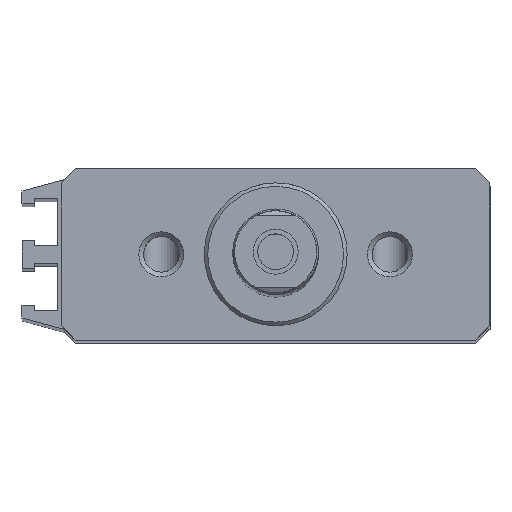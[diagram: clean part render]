
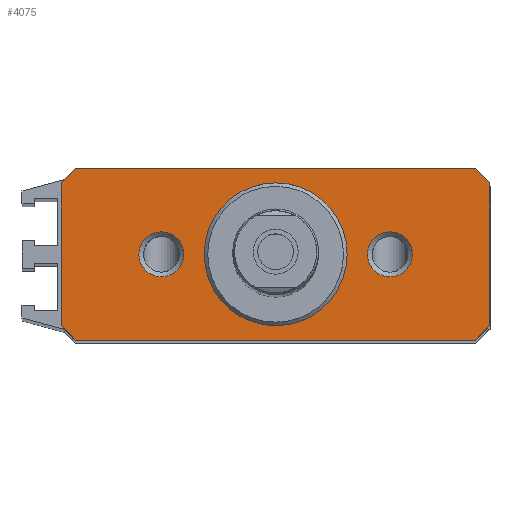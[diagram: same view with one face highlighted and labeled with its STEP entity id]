
A CAD part, top view. The second image highlights one B-rep face of the part: STEP entity #4075.
In plain terms, the highlighted planar face has unit normal (0, 0, 1) as drawn and (0, 0, -1) by its records, which use the part's own axes.
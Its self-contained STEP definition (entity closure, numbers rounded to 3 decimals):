
#2906=CARTESIAN_POINT('',(-10.0,0.0,-8.5));
#2907=VERTEX_POINT('',#2906);
#2908=CARTESIAN_POINT('',(0.0,0.0,-8.5));
#2909=DIRECTION('',(0.0,0.0,1.0));
#2910=DIRECTION('',(-1.0,0.0,0.0));
#2911=AXIS2_PLACEMENT_3D('',#2908,#2909,#2910);
#2912=CIRCLE('',#2911,10.0);
#2913=EDGE_CURVE('',#2907,#2907,#2912,.T.);
#3476=CARTESIAN_POINT('',(12.85,0.0,-8.5));
#3477=VERTEX_POINT('',#3476);
#3478=CARTESIAN_POINT('',(16.0,0.0,-8.5));
#3479=DIRECTION('',(0.0,0.0,1.0));
#3480=DIRECTION('',(-1.0,0.0,0.0));
#3481=AXIS2_PLACEMENT_3D('',#3478,#3479,#3480);
#3482=CIRCLE('',#3481,3.15);
#3483=EDGE_CURVE('',#3477,#3477,#3482,.T.);
#3527=CARTESIAN_POINT('',(-19.15,0.0,-8.5));
#3528=VERTEX_POINT('',#3527);
#3529=CARTESIAN_POINT('',(-16.0,0.0,-8.5));
#3530=DIRECTION('',(0.0,0.0,1.0));
#3531=DIRECTION('',(-1.0,0.0,0.0));
#3532=AXIS2_PLACEMENT_3D('',#3529,#3530,#3531);
#3533=CIRCLE('',#3532,3.15);
#3534=EDGE_CURVE('',#3528,#3528,#3533,.T.);
#3846=CARTESIAN_POINT('',(28.0,12.,-8.5));
#3847=VERTEX_POINT('',#3846);
#3848=CARTESIAN_POINT('',(-28.,12.,-8.5));
#3849=VERTEX_POINT('',#3848);
#3850=CARTESIAN_POINT('',(28.,12.,-8.5));
#3851=DIRECTION('',(-1.0,0.0,0.0));
#3852=VECTOR('',#3851,56.0);
#3853=LINE('',#3850,#3852);
#3854=EDGE_CURVE('',#3847,#3849,#3853,.T.);
#3883=CARTESIAN_POINT('',(-30.0,10.,-8.5));
#3884=VERTEX_POINT('',#3883);
#3885=CARTESIAN_POINT('',(-28.,12.,-8.5));
#3886=DIRECTION('',(-0.707,-0.707,0.0));
#3887=VECTOR('',#3886,2.828);
#3888=LINE('',#3885,#3887);
#3889=EDGE_CURVE('',#3849,#3884,#3888,.T.);
#3907=CARTESIAN_POINT('',(-30.0,-10.,-8.5));
#3908=VERTEX_POINT('',#3907);
#3909=CARTESIAN_POINT('',(-30.0,10.,-8.5));
#3910=DIRECTION('',(0.0,-1.0,0.0));
#3911=VECTOR('',#3910,20.);
#3912=LINE('',#3909,#3911);
#3913=EDGE_CURVE('',#3884,#3908,#3912,.T.);
#3934=CARTESIAN_POINT('',(-28.0,-12.,-8.5));
#3935=VERTEX_POINT('',#3934);
#3936=CARTESIAN_POINT('',(-30.0,-10.,-8.5));
#3937=DIRECTION('',(0.707,-0.707,0.0));
#3938=VECTOR('',#3937,2.828);
#3939=LINE('',#3936,#3938);
#3940=EDGE_CURVE('',#3908,#3935,#3939,.T.);
#3958=CARTESIAN_POINT('',(28.,-12.,-8.5));
#3959=VERTEX_POINT('',#3958);
#3960=CARTESIAN_POINT('',(-28.,-12.,-8.5));
#3961=DIRECTION('',(1.0,0.0,0.0));
#3962=VECTOR('',#3961,56.);
#3963=LINE('',#3960,#3962);
#3964=EDGE_CURVE('',#3935,#3959,#3963,.T.);
#3988=CARTESIAN_POINT('',(30.0,-10.,-8.5));
#3989=VERTEX_POINT('',#3988);
#3990=CARTESIAN_POINT('',(28.,-12.,-8.5));
#3991=DIRECTION('',(0.707,0.707,0.0));
#3992=VECTOR('',#3991,2.828);
#3993=LINE('',#3990,#3992);
#3994=EDGE_CURVE('',#3959,#3989,#3993,.T.);
#4012=CARTESIAN_POINT('',(30.0,10.,-8.5));
#4013=VERTEX_POINT('',#4012);
#4014=CARTESIAN_POINT('',(30.0,-10.,-8.5));
#4015=DIRECTION('',(0.0,1.0,0.0));
#4016=VECTOR('',#4015,20.);
#4017=LINE('',#4014,#4016);
#4018=EDGE_CURVE('',#3989,#4013,#4017,.T.);
#4039=CARTESIAN_POINT('',(30.,10.,-8.5));
#4040=DIRECTION('',(-0.707,0.707,0.0));
#4041=VECTOR('',#4040,2.828);
#4042=LINE('',#4039,#4041);
#4043=EDGE_CURVE('',#4013,#3847,#4042,.T.);
#4051=CARTESIAN_POINT('',(0.,0.0,-8.5));
#4052=DIRECTION('',(0.0,0.0,1.0));
#4053=DIRECTION('',(1.0,0.0,0.0));
#4054=AXIS2_PLACEMENT_3D('',#4051,#4052,#4053);
#4055=PLANE('',#4054);
#4056=ORIENTED_EDGE('',*,*,#3854,.F.);
#4057=ORIENTED_EDGE('',*,*,#4043,.F.);
#4058=ORIENTED_EDGE('',*,*,#4018,.F.);
#4059=ORIENTED_EDGE('',*,*,#3994,.F.);
#4060=ORIENTED_EDGE('',*,*,#3964,.F.);
#4061=ORIENTED_EDGE('',*,*,#3940,.F.);
#4062=ORIENTED_EDGE('',*,*,#3913,.F.);
#4063=ORIENTED_EDGE('',*,*,#3889,.F.);
#4064=EDGE_LOOP('',(#4056,#4057,#4058,#4059,#4060,#4061,#4062,#4063));
#4065=FACE_OUTER_BOUND('',#4064,.T.);
#4066=ORIENTED_EDGE('',*,*,#2913,.T.);
#4067=EDGE_LOOP('',(#4066));
#4068=FACE_BOUND('',#4067,.T.);
#4069=ORIENTED_EDGE('',*,*,#3483,.T.);
#4070=EDGE_LOOP('',(#4069));
#4071=FACE_BOUND('',#4070,.T.);
#4072=ORIENTED_EDGE('',*,*,#3534,.T.);
#4073=EDGE_LOOP('',(#4072));
#4074=FACE_BOUND('',#4073,.T.);
#4075=ADVANCED_FACE('',(#4065,#4068,#4071,#4074),#4055,.F.);
